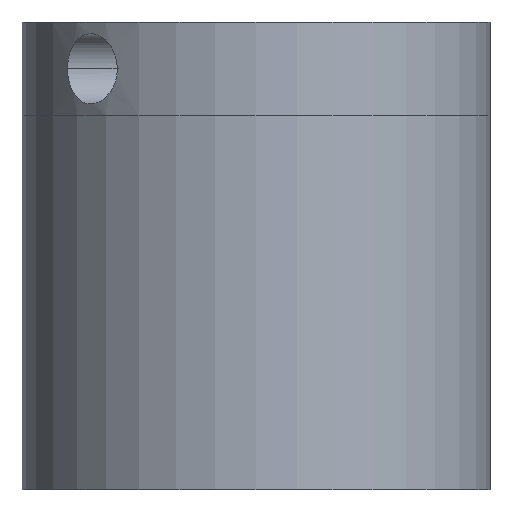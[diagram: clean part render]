
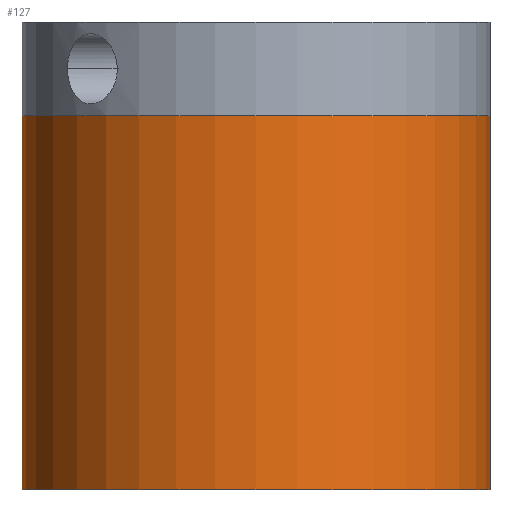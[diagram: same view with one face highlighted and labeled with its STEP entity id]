
A CAD part, front view. The second image highlights one B-rep face of the part: STEP entity #127.
In plain terms, the highlighted cylindrical face has radius 20 mm (diameter 40 mm), a partial arc.
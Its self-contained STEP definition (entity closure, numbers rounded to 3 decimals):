
#127=ADVANCED_FACE('',(#161),#147,.T.);
#147=CYLINDRICAL_SURFACE('',#416,20.);
#161=FACE_OUTER_BOUND('',#173,.T.);
#173=EDGE_LOOP('',(#221,#222,#223,#224));
#201=CIRCLE('',#414,20.);
#202=CIRCLE('',#415,20.);
#221=ORIENTED_EDGE('',*,*,#337,.T.);
#222=ORIENTED_EDGE('',*,*,#338,.F.);
#223=ORIENTED_EDGE('',*,*,#339,.F.);
#224=ORIENTED_EDGE('',*,*,#340,.T.);
#309=VERTEX_POINT('',#554);
#310=VERTEX_POINT('',#555);
#311=VERTEX_POINT('',#557);
#312=VERTEX_POINT('',#559);
#337=EDGE_CURVE('',#309,#310,#381,.T.);
#338=EDGE_CURVE('',#311,#310,#201,.T.);
#339=EDGE_CURVE('',#312,#311,#382,.T.);
#340=EDGE_CURVE('',#312,#309,#202,.T.);
#381=LINE('',#553,#397);
#382=LINE('',#558,#398);
#397=VECTOR('',#456,1.);
#398=VECTOR('',#459,1.);
#414=AXIS2_PLACEMENT_3D('',#556,#457,#458);
#415=AXIS2_PLACEMENT_3D('',#560,#460,#461);
#416=AXIS2_PLACEMENT_3D('',#561,#462,#463);
#456=DIRECTION('',(0.,0.,-1.));
#457=DIRECTION('',(0.,0.,-1.));
#458=DIRECTION('',(0.,1.,0.));
#459=DIRECTION('',(0.,0.,-1.));
#460=DIRECTION('',(0.,0.,-1.));
#461=DIRECTION('',(0.,1.,0.));
#462=DIRECTION('',(0.,0.,-1.));
#463=DIRECTION('',(0.,-1.,0.));
#553=CARTESIAN_POINT('',(-20.,0.,0.));
#554=CARTESIAN_POINT('',(-20.,0.,32.));
#555=CARTESIAN_POINT('',(-20.,0.,0.));
#556=CARTESIAN_POINT('',(0.,0.,0.));
#557=CARTESIAN_POINT('',(20.,0.,0.));
#558=CARTESIAN_POINT('',(20.,0.,0.));
#559=CARTESIAN_POINT('',(20.,0.,32.));
#560=CARTESIAN_POINT('',(0.,0.,32.));
#561=CARTESIAN_POINT('',(0.,0.,32.));
